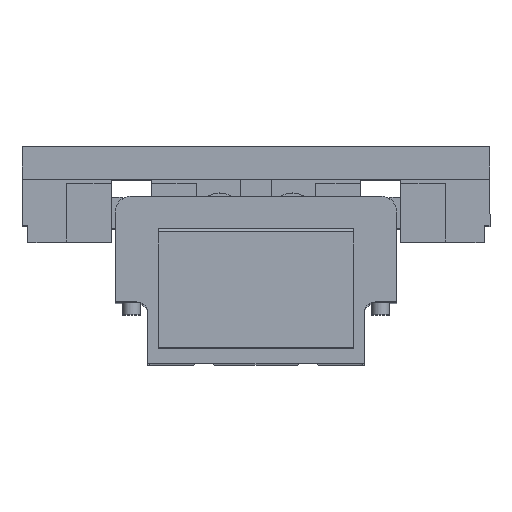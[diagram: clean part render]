
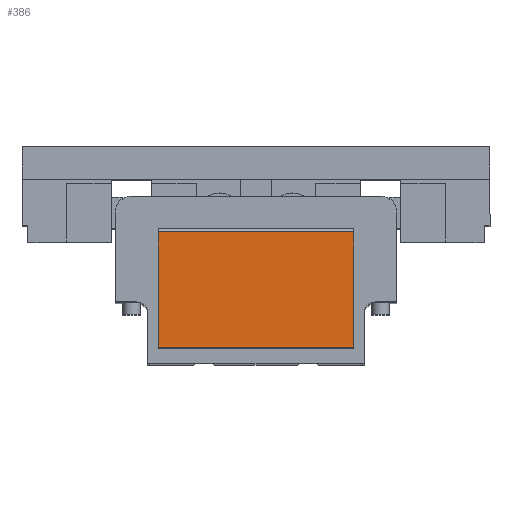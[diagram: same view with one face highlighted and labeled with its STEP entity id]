
A CAD part, top view. The second image highlights one B-rep face of the part: STEP entity #386.
In plain terms, the highlighted planar face has unit normal (0, 0, 1).
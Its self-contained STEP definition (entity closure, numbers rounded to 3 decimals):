
#386 = ADVANCED_FACE ( 'NONE', ( #7333 ), #19303, .F. ) ;
#1611 = CARTESIAN_POINT ( 'NONE',  ( -90.25, 0., 55. ) ) ;
#1912 = DIRECTION ( 'NONE',  ( 0., -1., 0. ) ) ;
#2522 = CARTESIAN_POINT ( 'NONE',  ( 90.25, 107., 55. ) ) ;
#2631 = VERTEX_POINT ( 'NONE', #12915 ) ;
#2644 = EDGE_CURVE ( 'NONE', #10823, #18028, #15944, .T. ) ;
#3032 = DIRECTION ( 'NONE',  ( 0., 0., -1. ) ) ;
#3323 = DIRECTION ( 'NONE',  ( 0., -1., 0. ) ) ;
#3514 = ORIENTED_EDGE ( 'NONE', *, *, #4321, .F. ) ;
#4117 = DIRECTION ( 'NONE',  ( -1., 0., 0. ) ) ;
#4321 = EDGE_CURVE ( 'NONE', #10823, #2631, #12144, .T. ) ;
#6131 = VECTOR ( 'NONE', #14465, 1000. ) ;
#6257 = ORIENTED_EDGE ( 'NONE', *, *, #7298, .T. ) ;
#7298 = EDGE_CURVE ( 'NONE', #18028, #16936, #16891, .T. ) ;
#7333 = FACE_OUTER_BOUND ( 'NONE', #9980, .T. ) ;
#7380 = ORIENTED_EDGE ( 'NONE', *, *, #2644, .T. ) ;
#8298 = VECTOR ( 'NONE', #1912, 1000. ) ;
#8809 = CARTESIAN_POINT ( 'NONE',  ( 90.25, 107., 55. ) ) ;
#9980 = EDGE_LOOP ( 'NONE', ( #6257, #17229, #3514, #7380 ) ) ;
#10291 = CARTESIAN_POINT ( 'NONE',  ( 90.25, 0., 55. ) ) ;
#10473 = DIRECTION ( 'NONE',  ( 0., 1., 0. ) ) ;
#10823 = VERTEX_POINT ( 'NONE', #8809 ) ;
#11657 = CARTESIAN_POINT ( 'NONE',  ( -90.25, 0., 55. ) ) ;
#12144 = LINE ( 'NONE', #16738, #19387 ) ;
#12915 = CARTESIAN_POINT ( 'NONE',  ( 90.25, 0., 55. ) ) ;
#14465 = DIRECTION ( 'NONE',  ( -1., 0., 0. ) ) ;
#15885 = CARTESIAN_POINT ( 'NONE',  ( 90.25, 0., 55. ) ) ;
#15944 = LINE ( 'NONE', #2522, #6131 ) ;
#16322 = EDGE_CURVE ( 'NONE', #2631, #16936, #18733, .T. ) ;
#16738 = CARTESIAN_POINT ( 'NONE',  ( 90.25, 0., 55. ) ) ;
#16891 = LINE ( 'NONE', #1611, #8298 ) ;
#16936 = VERTEX_POINT ( 'NONE', #11657 ) ;
#17169 = CARTESIAN_POINT ( 'NONE',  ( -90.25, 107., 55. ) ) ;
#17229 = ORIENTED_EDGE ( 'NONE', *, *, #16322, .F. ) ;
#18028 = VERTEX_POINT ( 'NONE', #17169 ) ;
#18733 = LINE ( 'NONE', #15885, #19253 ) ;
#18773 = AXIS2_PLACEMENT_3D ( 'NONE', #10291, #3032, #10473 ) ;
#19253 = VECTOR ( 'NONE', #4117, 1000. ) ;
#19303 = PLANE ( 'NONE',  #18773 ) ;
#19387 = VECTOR ( 'NONE', #3323, 1000. ) ;
